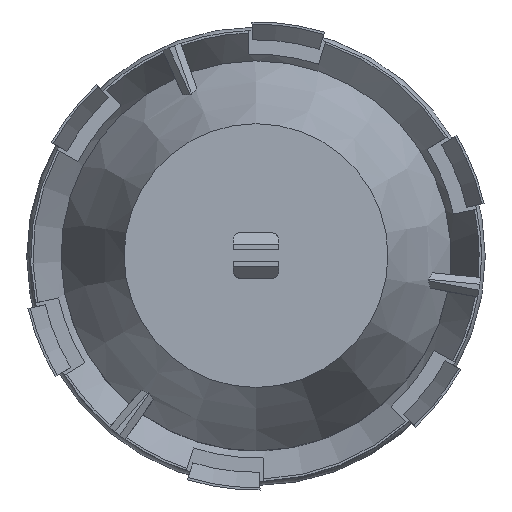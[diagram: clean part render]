
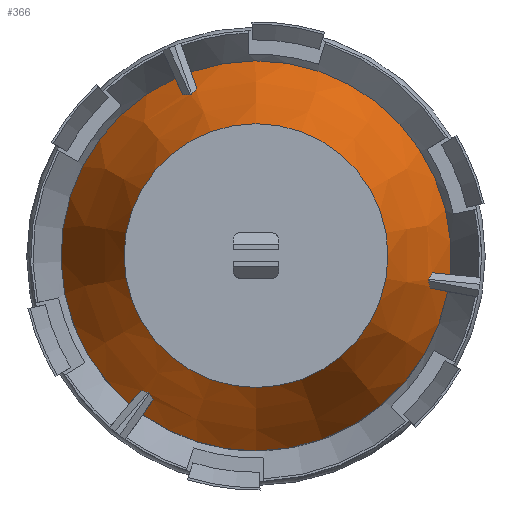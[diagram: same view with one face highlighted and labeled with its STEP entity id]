
A CAD part, top view. The second image highlights one B-rep face of the part: STEP entity #366.
In plain terms, the highlighted conical face has half-angle 22.932 degrees and reference radius 14.25 mm.
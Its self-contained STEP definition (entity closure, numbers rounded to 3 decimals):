
#75=CARTESIAN_POINT('',(-9.875,-13.837,12.8));
#76=VERTEX_POINT('',#75);
#92=CARTESIAN_POINT('',(16.715,-3.102,12.8));
#93=VERTEX_POINT('',#92);
#100=CARTESIAN_POINT('',(0.,0.,12.8));
#101=DIRECTION('',(0.0,0.0,-1.0));
#102=DIRECTION('',(0.0,-1.0,0.0));
#103=AXIS2_PLACEMENT_3D('',#100,#101,#102);
#104=CIRCLE('',#103,17.0);
#105=EDGE_CURVE('',#93,#76,#104,.T.);
#115=CARTESIAN_POINT('',(-5.671,16.026,12.8));
#116=VERTEX_POINT('',#115);
#125=CARTESIAN_POINT('',(16.921,-1.634,12.8));
#126=VERTEX_POINT('',#125);
#127=CARTESIAN_POINT('',(0.,0.,12.8));
#128=DIRECTION('',(0.0,0.0,-1.0));
#129=DIRECTION('',(0.0,-1.0,0.0));
#130=AXIS2_PLACEMENT_3D('',#127,#128,#129);
#131=CIRCLE('',#130,17.0);
#132=EDGE_CURVE('',#116,#126,#131,.T.);
#159=CARTESIAN_POINT('',(-7.046,15.471,12.8));
#160=VERTEX_POINT('',#159);
#176=CARTESIAN_POINT('',(-11.044,-12.924,12.8));
#177=VERTEX_POINT('',#176);
#184=CARTESIAN_POINT('',(0.,0.,12.8));
#185=DIRECTION('',(0.0,0.0,-1.0));
#186=DIRECTION('',(0.0,-1.0,0.0));
#187=AXIS2_PLACEMENT_3D('',#184,#185,#186);
#188=CIRCLE('',#187,17.0);
#189=EDGE_CURVE('',#177,#160,#188,.T.);
#222=CARTESIAN_POINT('',(0.,0.,19.3));
#223=DIRECTION('',(0.,0.,-1.0));
#224=DIRECTION('',(0.0,-1.0,0.0));
#225=AXIS2_PLACEMENT_3D('',#222,#223,#224);
#226=CONICAL_SURFACE('',#225,14.25,22.932);
#227=CARTESIAN_POINT('',(-6.397,14.047,16.5));
#228=VERTEX_POINT('',#227);
#229=CARTESIAN_POINT('',(-7.046,15.471,12.8));
#230=DIRECTION('',(0.161,-0.355,0.921));
#231=VECTOR('',#230,4.018);
#232=LINE('',#229,#231);
#233=EDGE_CURVE('',#160,#228,#232,.T.);
#234=ORIENTED_EDGE('',*,*,#233,.F.);
#235=ORIENTED_EDGE('',*,*,#189,.F.);
#236=CARTESIAN_POINT('',(-10.027,-11.734,16.5));
#237=VERTEX_POINT('',#236);
#238=CARTESIAN_POINT('',(-10.027,-11.734,16.5));
#239=DIRECTION('',(-0.253,-0.296,-0.921));
#240=VECTOR('',#239,4.018);
#241=LINE('',#238,#240);
#242=EDGE_CURVE('',#237,#177,#241,.T.);
#243=ORIENTED_EDGE('',*,*,#242,.F.);
#244=CARTESIAN_POINT('',(-9.398,-11.922,17.1));
#245=VERTEX_POINT('',#244);
#246=CARTESIAN_POINT('',(-6.047,5.167,8.546));
#247=DIRECTION('',(0.538,-0.459,-0.707));
#248=DIRECTION('',(-0.538,0.459,-0.707));
#249=AXIS2_PLACEMENT_3D('',#246,#247,#248);
#250=ELLIPSE('',#249,26.587,17.034);
#251=EDGE_CURVE('',#245,#237,#250,.T.);
#252=ORIENTED_EDGE('',*,*,#251,.F.);
#253=CARTESIAN_POINT('',(-9.3,-11.998,17.1));
#254=VERTEX_POINT('',#253);
#255=CARTESIAN_POINT('',(0.,0.,17.1));
#256=DIRECTION('',(0.0,0.0,-1.0));
#257=DIRECTION('',(0.0,-1.0,0.0));
#258=AXIS2_PLACEMENT_3D('',#255,#256,#257);
#259=CIRCLE('',#258,15.181);
#260=EDGE_CURVE('',#254,#245,#259,.T.);
#261=ORIENTED_EDGE('',*,*,#260,.F.);
#262=CARTESIAN_POINT('',(-8.966,-12.563,16.5));
#263=VERTEX_POINT('',#262);
#264=CARTESIAN_POINT('',(6.474,-4.62,8.546));
#265=DIRECTION('',(-0.576,0.411,-0.707));
#266=DIRECTION('',(0.576,-0.411,-0.707));
#267=AXIS2_PLACEMENT_3D('',#264,#265,#266);
#268=ELLIPSE('',#267,26.587,17.034);
#269=EDGE_CURVE('',#263,#254,#268,.T.);
#270=ORIENTED_EDGE('',*,*,#269,.F.);
#271=CARTESIAN_POINT('',(-9.875,-13.837,12.8));
#272=DIRECTION('',(0.226,0.317,0.921));
#273=VECTOR('',#272,4.018);
#274=LINE('',#271,#273);
#275=EDGE_CURVE('',#76,#263,#274,.T.);
#276=ORIENTED_EDGE('',*,*,#275,.F.);
#277=ORIENTED_EDGE('',*,*,#105,.F.);
#278=CARTESIAN_POINT('',(15.175,-2.817,16.5));
#279=VERTEX_POINT('',#278);
#280=CARTESIAN_POINT('',(15.175,-2.817,16.5));
#281=DIRECTION('',(0.383,-0.071,-0.921));
#282=VECTOR('',#281,4.018);
#283=LINE('',#280,#282);
#284=EDGE_CURVE('',#279,#93,#283,.T.);
#285=ORIENTED_EDGE('',*,*,#284,.F.);
#286=CARTESIAN_POINT('',(15.024,-2.178,17.1));
#287=VERTEX_POINT('',#286);
#288=CARTESIAN_POINT('',(-1.451,-7.82,8.546));
#289=DIRECTION('',(0.129,0.695,-0.707));
#290=DIRECTION('',(0.129,0.695,0.707));
#291=AXIS2_PLACEMENT_3D('',#288,#289,#290);
#292=ELLIPSE('',#291,26.587,17.034);
#293=EDGE_CURVE('',#287,#279,#292,.T.);
#294=ORIENTED_EDGE('',*,*,#293,.F.);
#295=CARTESIAN_POINT('',(15.041,-2.055,17.1));
#296=VERTEX_POINT('',#295);
#297=CARTESIAN_POINT('',(0.,0.,17.1));
#298=DIRECTION('',(0.0,0.0,-1.0));
#299=DIRECTION('',(0.0,-1.0,0.0));
#300=AXIS2_PLACEMENT_3D('',#297,#298,#299);
#301=CIRCLE('',#300,15.181);
#302=EDGE_CURVE('',#296,#287,#301,.T.);
#303=ORIENTED_EDGE('',*,*,#302,.F.);
#304=CARTESIAN_POINT('',(15.363,-1.483,16.5));
#305=VERTEX_POINT('',#304);
#306=CARTESIAN_POINT('',(0.764,7.917,8.546));
#307=DIRECTION('',(-0.068,-0.704,-0.707));
#308=DIRECTION('',(0.068,0.704,-0.707));
#309=AXIS2_PLACEMENT_3D('',#306,#307,#308);
#310=ELLIPSE('',#309,26.587,17.034);
#311=EDGE_CURVE('',#305,#296,#310,.T.);
#312=ORIENTED_EDGE('',*,*,#311,.F.);
#313=CARTESIAN_POINT('',(16.921,-1.634,12.8));
#314=DIRECTION('',(-0.388,0.037,0.921));
#315=VECTOR('',#314,4.018);
#316=LINE('',#313,#315);
#317=EDGE_CURVE('',#126,#305,#316,.T.);
#318=ORIENTED_EDGE('',*,*,#317,.F.);
#319=ORIENTED_EDGE('',*,*,#132,.F.);
#320=CARTESIAN_POINT('',(-5.148,14.551,16.5));
#321=VERTEX_POINT('',#320);
#322=CARTESIAN_POINT('',(-5.148,14.551,16.5));
#323=DIRECTION('',(-0.13,0.367,-0.921));
#324=VECTOR('',#323,4.018);
#325=LINE('',#322,#324);
#326=EDGE_CURVE('',#321,#116,#325,.T.);
#327=ORIENTED_EDGE('',*,*,#326,.F.);
#328=CARTESIAN_POINT('',(-5.625,14.1,17.1));
#329=VERTEX_POINT('',#328);
#330=CARTESIAN_POINT('',(7.498,2.653,8.546));
#331=DIRECTION('',(-0.667,-0.236,-0.707));
#332=DIRECTION('',(0.667,0.236,-0.707));
#333=AXIS2_PLACEMENT_3D('',#330,#331,#332);
#334=ELLIPSE('',#333,26.587,17.034);
#335=EDGE_CURVE('',#329,#321,#334,.T.);
#336=ORIENTED_EDGE('',*,*,#335,.F.);
#337=CARTESIAN_POINT('',(-5.741,14.053,17.1));
#338=VERTEX_POINT('',#337);
#339=CARTESIAN_POINT('',(0.,0.,17.1));
#340=DIRECTION('',(0.0,0.0,-1.0));
#341=DIRECTION('',(0.0,-1.0,0.0));
#342=AXIS2_PLACEMENT_3D('',#339,#340,#341);
#343=CIRCLE('',#342,15.181);
#344=EDGE_CURVE('',#338,#329,#343,.T.);
#345=ORIENTED_EDGE('',*,*,#344,.F.);
#346=CARTESIAN_POINT('',(-7.238,-3.297,8.546));
#347=DIRECTION('',(0.644,0.293,-0.707));
#348=DIRECTION('',(0.644,0.293,0.707));
#349=AXIS2_PLACEMENT_3D('',#346,#347,#348);
#350=ELLIPSE('',#349,26.587,17.034);
#351=EDGE_CURVE('',#228,#338,#350,.T.);
#352=ORIENTED_EDGE('',*,*,#351,.F.);
#353=EDGE_LOOP('',(#234,#235,#243,#252,#261,#270,#276,#277,#285,#294,#303,#312,#318,#319,#327,#336,#345,#352));
#354=FACE_OUTER_BOUND('',#353,.T.);
#355=CARTESIAN_POINT('',(0.,-11.5,25.8));
#356=VERTEX_POINT('',#355);
#357=CARTESIAN_POINT('',(0.,0.,25.8));
#358=DIRECTION('',(0.0,0.0,-1.0));
#359=DIRECTION('',(0.0,-1.0,0.0));
#360=AXIS2_PLACEMENT_3D('',#357,#358,#359);
#361=CIRCLE('',#360,11.5);
#362=EDGE_CURVE('',#356,#356,#361,.T.);
#363=ORIENTED_EDGE('',*,*,#362,.T.);
#364=EDGE_LOOP('',(#363));
#365=FACE_BOUND('',#364,.T.);
#366=ADVANCED_FACE('',(#354,#365),#226,.T.);
